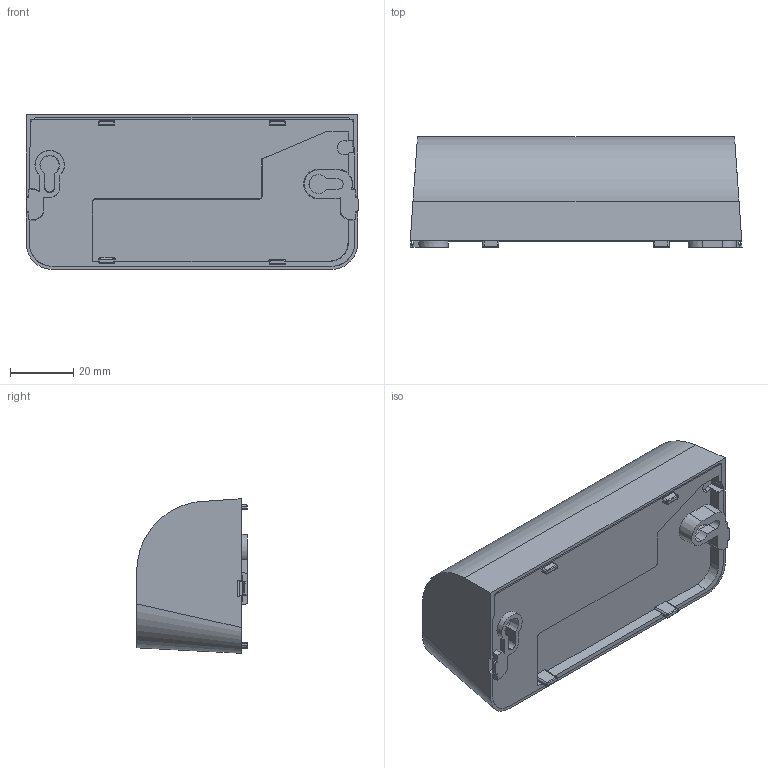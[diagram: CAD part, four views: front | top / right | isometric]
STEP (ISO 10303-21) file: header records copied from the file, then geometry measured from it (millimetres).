
FILE_DESCRIPTION (( 'STEP AP203' ), '1' );
FILE_NAME ('00009529Marketing.STEP', '2026-06-01T08:34:02', ( '' ), ( '' ), 'SwSTEP 2.0', 'SolidWorks 2022', '' );
FILE_SCHEMA (( 'CONFIG_CONTROL_DESIGN' ));
Length unit declared in the file: millimetre
Products named in the file (3): 00009529Marketing; 00009524M.step; 480075M.step
Assembly tree (2 placements, depth 2):
  00009529Marketing
    00009524M.step
    480075M.step
Bounding box: 105 x 35.03 x 48.88 mm (x, y, z)
Volume: 141272.9 mm3; surface area: 31944.1 mm2
Topology: 2 solids, 2 shells, 288 faces, 772 edges, 490 vertices
Faces by surface type: plane 153, cylinder 76, bspline 39, cone 16, sphere 4
Entity records: 10614 total; most frequent: CARTESIAN_POINT 3659, ORIENTED_EDGE 1536, DIRECTION 1198, EDGE_CURVE 768, LINE 504, VECTOR 504, VERTEX_POINT 490, AXIS2_PLACEMENT_3D 347
